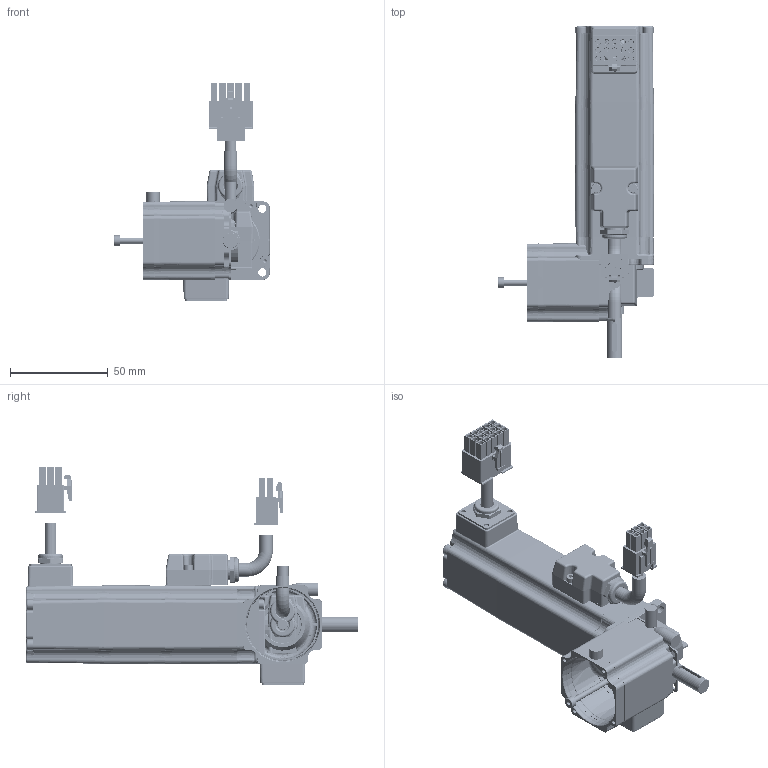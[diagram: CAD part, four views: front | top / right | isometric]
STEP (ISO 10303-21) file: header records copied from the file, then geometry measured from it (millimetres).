
FILE_DESCRIPTION( ( 'Unknown' ), '1' );
FILE_NAME( 'K:/121010-AL Files 3D Step con chiavetta/Q0A929_0,16.stp', 'Unknown', ( 'Unknown' ), ( 'Unknown' ), 'PSStep 14.0', 'Unknown', ' ' );
FILE_SCHEMA( ( 'AUTOMOTIVE_DESIGN { 1 0 10303 214 1 1 1 1 }' ) );
Length unit declared in the file: millimetre
Products named in the file (41): Assem1; blocchetto potenza ORIZ TC40-(N13050); Vite a brugola testa cil 8,8 -  M 2,5 x 4; N45901; N35907; Vite a brugola testa cil 8,8 -  M 2,5 x 12; 1; N15909_D6,5-oa4; N35218_H5; CAPICORDA 3_senza protezione; CAVO POT-N13050-curva; N33908; S00906; n09912; n35905; N35209; CUSC_10_26_8_6000_ZZ; N27908; CN amp 172171; Vite a brugola testa cil 8,8 -  M 2,5 x 16; Vite a brugola testa cil 8,8 -  M  3 x 40; Vite a brugola testa cil 8,8 -  M  3 x 40-oa0; Vite a brugola testa cil 8,8 -  M  3 x 40-oa1; Vite a brugola testa cil 8,8 -  M  3 x 40-oa2; CAVO D6 L30-sgn; N15909_D6,5; CN amp 172168 6p MAS; LI-PIA   3x3 x 15; N01974; CUSC_7_19_6_607_ZZ
Bounding box: 79.6 x 169.64 x 111.7 mm (x, y, z)
Volume: 182919.9 mm3; surface area: 167934.4 mm2
Topology: 87 solids, 91 shells, 5104 faces, 13271 edges, 8550 vertices
Faces by surface type: plane 3152, cylinder 979, bspline 369, cone 263, torus 225, extrusion 66, sphere 50
Full cylindrical faces by diameter (mm): 0.314 x2, 1.82 x30, 2.013 x31, 2.05 x4, 2.459 x18, 2.5 x11, 2.6 x42, 2.7 x14, 3 x24, 3.2 x3, 3.5 x4, 4.7 x11, 5 x2, 5.5 x8, 6 x4, 6.5 x5, 6.8 x3, 6.995 x2, 7 x12, 8 x5, 10 x4, 10.3 x10, 10.647 x3, 10.707 x2, 10.84 x8, 11 x4, 12 x7, 12.7 x5, 14.5 x2, 14.7 x4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
Entity records: 92458 total; most frequent: CARTESIAN_POINT 24652, ORIENTED_EDGE 11652, DIRECTION 11164, EDGE_CURVE 5826, VECTOR 3996, LINE 3963, VERTEX_POINT 3930, AXIS2_PLACEMENT_3D 3584
